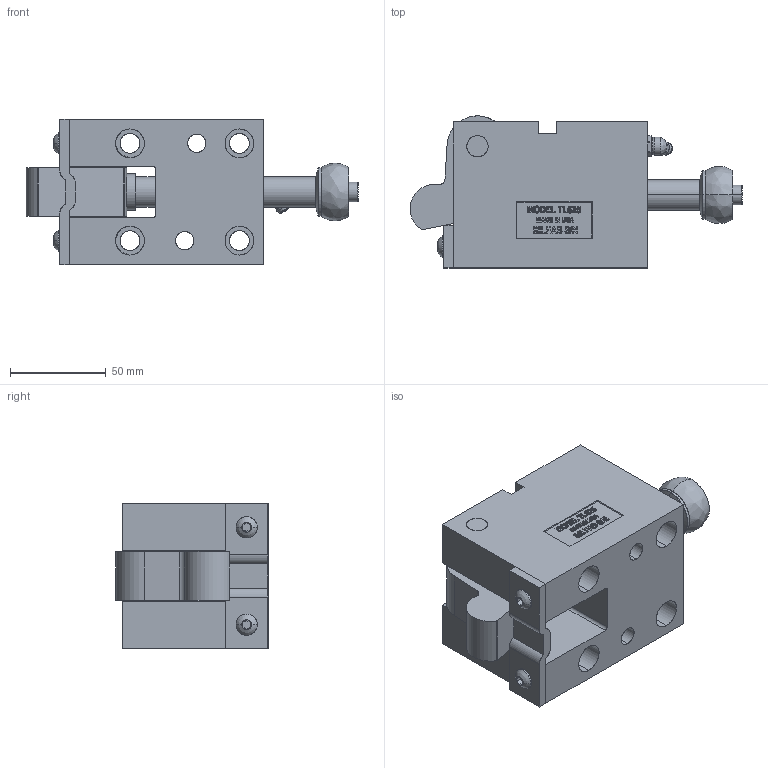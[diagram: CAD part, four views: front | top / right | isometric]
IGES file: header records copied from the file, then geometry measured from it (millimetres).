
Start section: SolidWorks IGES file using analytic representation for surfaces
Global section: file name: Y:\JIM'S INCH CAM UNITS\TL62545\CLOSED\TL62545-C.IGS; native system: SolidWorks 2006 by SolidWorks Corporation; preprocessor: SolidWorks 2006 by SolidWorks Corporation; author: Jim; date: 090211.103115; units: inch
Bounding box: 173.31 x 79.35 x 76.2 mm (x, y, z)
Surface area: 95963.1 mm2 (no closed solid volume)
Topology: 0 solids, 0 shells, 589 faces, 7077 edges, 7073 vertices
Faces by surface type: bspline 455, revolution 134
